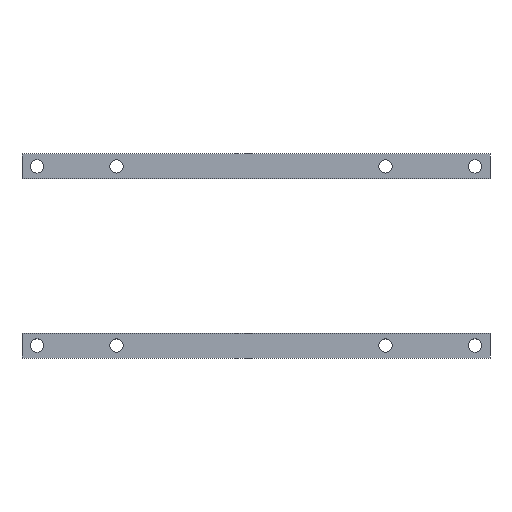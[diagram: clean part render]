
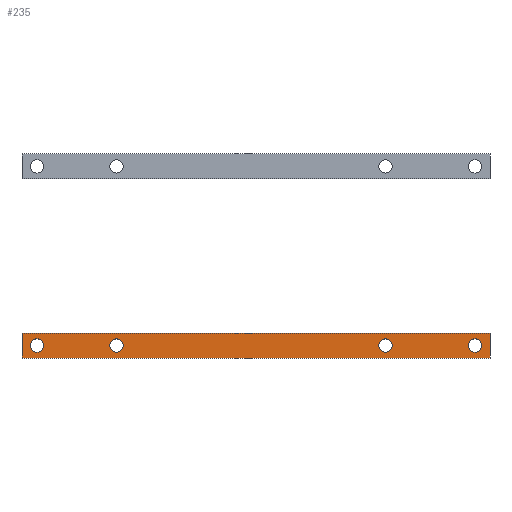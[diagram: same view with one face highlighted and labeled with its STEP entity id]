
A CAD part, top view. The second image highlights one B-rep face of the part: STEP entity #235.
In plain terms, the highlighted planar face has unit normal (0, 0, 1).
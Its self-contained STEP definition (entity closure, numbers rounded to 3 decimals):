
#46 = VERTEX_POINT('',#47);
#47 = CARTESIAN_POINT('',(56.,-20.5,-31.4));
#54 = PLANE('',#55);
#55 = AXIS2_PLACEMENT_3D('',#56,#57,#58);
#56 = CARTESIAN_POINT('',(56.,-20.5,-33.4));
#57 = DIRECTION('',(-1.,-0.,0.));
#58 = DIRECTION('',(0.,0.,-1.));
#66 = PLANE('',#67);
#67 = AXIS2_PLACEMENT_3D('',#68,#69,#70);
#68 = CARTESIAN_POINT('',(56.,-20.5,-33.4));
#69 = DIRECTION('',(-0.,1.,0.));
#70 = DIRECTION('',(0.,0.,-1.));
#107 = VERTEX_POINT('',#108);
#108 = CARTESIAN_POINT('',(56.,-15.5,-31.4));
#122 = PLANE('',#123);
#123 = AXIS2_PLACEMENT_3D('',#124,#125,#126);
#124 = CARTESIAN_POINT('',(56.,-15.5,-33.4));
#125 = DIRECTION('',(-0.,1.,0.));
#126 = DIRECTION('',(0.,0.,-1.));
#134 = EDGE_CURVE('',#46,#107,#135,.T.);
#135 = SURFACE_CURVE('',#136,(#140,#147),.PCURVE_S1.);
#136 = LINE('',#137,#138);
#137 = CARTESIAN_POINT('',(56.,-20.5,-31.4));
#138 = VECTOR('',#139,1.);
#139 = DIRECTION('',(-0.,1.,0.));
#140 = PCURVE('',#54,#141);
#141 = DEFINITIONAL_REPRESENTATION('',(#142),#146);
#142 = LINE('',#143,#144);
#143 = CARTESIAN_POINT('',(-2.,-0.));
#144 = VECTOR('',#145,1.);
#145 = DIRECTION('',(-0.,-1.));
#146 = ( GEOMETRIC_REPRESENTATION_CONTEXT(2) 
PARAMETRIC_REPRESENTATION_CONTEXT() REPRESENTATION_CONTEXT('2D SPACE',''
  ) );
#147 = PCURVE('',#148,#153);
#148 = PLANE('',#149);
#149 = AXIS2_PLACEMENT_3D('',#150,#151,#152);
#150 = CARTESIAN_POINT('',(56.,-20.5,-31.4));
#151 = DIRECTION('',(0.,0.,1.));
#152 = DIRECTION('',(1.,0.,0.));
#153 = DEFINITIONAL_REPRESENTATION('',(#154),#158);
#154 = LINE('',#155,#156);
#155 = CARTESIAN_POINT('',(0.,-0.));
#156 = VECTOR('',#157,1.);
#157 = DIRECTION('',(-0.,1.));
#158 = ( GEOMETRIC_REPRESENTATION_CONTEXT(2) 
PARAMETRIC_REPRESENTATION_CONTEXT() REPRESENTATION_CONTEXT('2D SPACE',''
  ) );
#187 = EDGE_CURVE('',#46,#188,#190,.T.);
#188 = VERTEX_POINT('',#189);
#189 = CARTESIAN_POINT('',(-38.,-20.5,-31.4));
#190 = SURFACE_CURVE('',#191,(#195,#202),.PCURVE_S1.);
#191 = LINE('',#192,#193);
#192 = CARTESIAN_POINT('',(56.,-20.5,-31.4));
#193 = VECTOR('',#194,1.);
#194 = DIRECTION('',(-1.,-0.,0.));
#195 = PCURVE('',#66,#196);
#196 = DEFINITIONAL_REPRESENTATION('',(#197),#201);
#197 = LINE('',#198,#199);
#198 = CARTESIAN_POINT('',(-2.,-0.));
#199 = VECTOR('',#200,1.);
#200 = DIRECTION('',(-0.,1.));
#201 = ( GEOMETRIC_REPRESENTATION_CONTEXT(2) 
PARAMETRIC_REPRESENTATION_CONTEXT() REPRESENTATION_CONTEXT('2D SPACE',''
  ) );
#202 = PCURVE('',#148,#203);
#203 = DEFINITIONAL_REPRESENTATION('',(#204),#208);
#204 = LINE('',#205,#206);
#205 = CARTESIAN_POINT('',(0.,-0.));
#206 = VECTOR('',#207,1.);
#207 = DIRECTION('',(-1.,0.));
#208 = ( GEOMETRIC_REPRESENTATION_CONTEXT(2) 
PARAMETRIC_REPRESENTATION_CONTEXT() REPRESENTATION_CONTEXT('2D SPACE',''
  ) );
#224 = PLANE('',#225);
#225 = AXIS2_PLACEMENT_3D('',#226,#227,#228);
#226 = CARTESIAN_POINT('',(-38.,-20.5,-33.4));
#227 = DIRECTION('',(-1.,-0.,0.));
#228 = DIRECTION('',(0.,0.,-1.));
#235 = ADVANCED_FACE('',(#236,#284,#315,#346,#377),#148,.T.);
#236 = FACE_BOUND('',#237,.F.);
#237 = EDGE_LOOP('',(#238,#239,#240,#263));
#238 = ORIENTED_EDGE('',*,*,#134,.F.);
#239 = ORIENTED_EDGE('',*,*,#187,.T.);
#240 = ORIENTED_EDGE('',*,*,#241,.T.);
#241 = EDGE_CURVE('',#188,#242,#244,.T.);
#242 = VERTEX_POINT('',#243);
#243 = CARTESIAN_POINT('',(-38.,-15.5,-31.4));
#244 = SURFACE_CURVE('',#245,(#249,#256),.PCURVE_S1.);
#245 = LINE('',#246,#247);
#246 = CARTESIAN_POINT('',(-38.,-20.5,-31.4));
#247 = VECTOR('',#248,1.);
#248 = DIRECTION('',(-0.,1.,0.));
#249 = PCURVE('',#148,#250);
#250 = DEFINITIONAL_REPRESENTATION('',(#251),#255);
#251 = LINE('',#252,#253);
#252 = CARTESIAN_POINT('',(-94.,0.));
#253 = VECTOR('',#254,1.);
#254 = DIRECTION('',(-0.,1.));
#255 = ( GEOMETRIC_REPRESENTATION_CONTEXT(2) 
PARAMETRIC_REPRESENTATION_CONTEXT() REPRESENTATION_CONTEXT('2D SPACE',''
  ) );
#256 = PCURVE('',#224,#257);
#257 = DEFINITIONAL_REPRESENTATION('',(#258),#262);
#258 = LINE('',#259,#260);
#259 = CARTESIAN_POINT('',(-2.,-0.));
#260 = VECTOR('',#261,1.);
#261 = DIRECTION('',(-0.,-1.));
#262 = ( GEOMETRIC_REPRESENTATION_CONTEXT(2) 
PARAMETRIC_REPRESENTATION_CONTEXT() REPRESENTATION_CONTEXT('2D SPACE',''
  ) );
#263 = ORIENTED_EDGE('',*,*,#264,.F.);
#264 = EDGE_CURVE('',#107,#242,#265,.T.);
#265 = SURFACE_CURVE('',#266,(#270,#277),.PCURVE_S1.);
#266 = LINE('',#267,#268);
#267 = CARTESIAN_POINT('',(56.,-15.5,-31.4));
#268 = VECTOR('',#269,1.);
#269 = DIRECTION('',(-1.,-0.,0.));
#270 = PCURVE('',#148,#271);
#271 = DEFINITIONAL_REPRESENTATION('',(#272),#276);
#272 = LINE('',#273,#274);
#273 = CARTESIAN_POINT('',(0.,5.));
#274 = VECTOR('',#275,1.);
#275 = DIRECTION('',(-1.,0.));
#276 = ( GEOMETRIC_REPRESENTATION_CONTEXT(2) 
PARAMETRIC_REPRESENTATION_CONTEXT() REPRESENTATION_CONTEXT('2D SPACE',''
  ) );
#277 = PCURVE('',#122,#278);
#278 = DEFINITIONAL_REPRESENTATION('',(#279),#283);
#279 = LINE('',#280,#281);
#280 = CARTESIAN_POINT('',(-2.,-0.));
#281 = VECTOR('',#282,1.);
#282 = DIRECTION('',(-0.,1.));
#283 = ( GEOMETRIC_REPRESENTATION_CONTEXT(2) 
PARAMETRIC_REPRESENTATION_CONTEXT() REPRESENTATION_CONTEXT('2D SPACE',''
  ) );
#284 = FACE_BOUND('',#285,.F.);
#285 = EDGE_LOOP('',(#286));
#286 = ORIENTED_EDGE('',*,*,#287,.T.);
#287 = EDGE_CURVE('',#288,#288,#290,.T.);
#288 = VERTEX_POINT('',#289);
#289 = CARTESIAN_POINT('',(51.65,-18.,-31.4));
#290 = SURFACE_CURVE('',#291,(#296,#303),.PCURVE_S1.);
#291 = CIRCLE('',#292,1.35);
#292 = AXIS2_PLACEMENT_3D('',#293,#294,#295);
#293 = CARTESIAN_POINT('',(53.,-18.,-31.4));
#294 = DIRECTION('',(0.,0.,1.));
#295 = DIRECTION('',(-1.,-0.,-0.));
#296 = PCURVE('',#148,#297);
#297 = DEFINITIONAL_REPRESENTATION('',(#298),#302);
#298 = CIRCLE('',#299,1.35);
#299 = AXIS2_PLACEMENT_2D('',#300,#301);
#300 = CARTESIAN_POINT('',(-3.,2.5));
#301 = DIRECTION('',(-1.,0.));
#302 = ( GEOMETRIC_REPRESENTATION_CONTEXT(2) 
PARAMETRIC_REPRESENTATION_CONTEXT() REPRESENTATION_CONTEXT('2D SPACE',''
  ) );
#303 = PCURVE('',#304,#309);
#304 = CYLINDRICAL_SURFACE('',#305,1.35);
#305 = AXIS2_PLACEMENT_3D('',#306,#307,#308);
#306 = CARTESIAN_POINT('',(53.,-18.,-34.));
#307 = DIRECTION('',(0.,-0.,-1.));
#308 = DIRECTION('',(-1.,-0.,-0.));
#309 = DEFINITIONAL_REPRESENTATION('',(#310),#314);
#310 = LINE('',#311,#312);
#311 = CARTESIAN_POINT('',(6.283,-2.6));
#312 = VECTOR('',#313,1.);
#313 = DIRECTION('',(-1.,0.));
#314 = ( GEOMETRIC_REPRESENTATION_CONTEXT(2) 
PARAMETRIC_REPRESENTATION_CONTEXT() REPRESENTATION_CONTEXT('2D SPACE',''
  ) );
#315 = FACE_BOUND('',#316,.F.);
#316 = EDGE_LOOP('',(#317));
#317 = ORIENTED_EDGE('',*,*,#318,.T.);
#318 = EDGE_CURVE('',#319,#319,#321,.T.);
#319 = VERTEX_POINT('',#320);
#320 = CARTESIAN_POINT('',(33.65,-18.,-31.4));
#321 = SURFACE_CURVE('',#322,(#327,#334),.PCURVE_S1.);
#322 = CIRCLE('',#323,1.35);
#323 = AXIS2_PLACEMENT_3D('',#324,#325,#326);
#324 = CARTESIAN_POINT('',(35.,-18.,-31.4));
#325 = DIRECTION('',(0.,0.,1.));
#326 = DIRECTION('',(-1.,-0.,-0.));
#327 = PCURVE('',#148,#328);
#328 = DEFINITIONAL_REPRESENTATION('',(#329),#333);
#329 = CIRCLE('',#330,1.35);
#330 = AXIS2_PLACEMENT_2D('',#331,#332);
#331 = CARTESIAN_POINT('',(-21.,2.5));
#332 = DIRECTION('',(-1.,0.));
#333 = ( GEOMETRIC_REPRESENTATION_CONTEXT(2) 
PARAMETRIC_REPRESENTATION_CONTEXT() REPRESENTATION_CONTEXT('2D SPACE',''
  ) );
#334 = PCURVE('',#335,#340);
#335 = CYLINDRICAL_SURFACE('',#336,1.35);
#336 = AXIS2_PLACEMENT_3D('',#337,#338,#339);
#337 = CARTESIAN_POINT('',(35.,-18.,-34.));
#338 = DIRECTION('',(0.,-0.,-1.));
#339 = DIRECTION('',(-1.,-0.,-0.));
#340 = DEFINITIONAL_REPRESENTATION('',(#341),#345);
#341 = LINE('',#342,#343);
#342 = CARTESIAN_POINT('',(6.283,-2.6));
#343 = VECTOR('',#344,1.);
#344 = DIRECTION('',(-1.,0.));
#345 = ( GEOMETRIC_REPRESENTATION_CONTEXT(2) 
PARAMETRIC_REPRESENTATION_CONTEXT() REPRESENTATION_CONTEXT('2D SPACE',''
  ) );
#346 = FACE_BOUND('',#347,.F.);
#347 = EDGE_LOOP('',(#348));
#348 = ORIENTED_EDGE('',*,*,#349,.T.);
#349 = EDGE_CURVE('',#350,#350,#352,.T.);
#350 = VERTEX_POINT('',#351);
#351 = CARTESIAN_POINT('',(-20.35,-18.,-31.4));
#352 = SURFACE_CURVE('',#353,(#358,#365),.PCURVE_S1.);
#353 = CIRCLE('',#354,1.35);
#354 = AXIS2_PLACEMENT_3D('',#355,#356,#357);
#355 = CARTESIAN_POINT('',(-19.,-18.,-31.4));
#356 = DIRECTION('',(0.,0.,1.));
#357 = DIRECTION('',(-1.,-0.,-0.));
#358 = PCURVE('',#148,#359);
#359 = DEFINITIONAL_REPRESENTATION('',(#360),#364);
#360 = CIRCLE('',#361,1.35);
#361 = AXIS2_PLACEMENT_2D('',#362,#363);
#362 = CARTESIAN_POINT('',(-75.,2.5));
#363 = DIRECTION('',(-1.,0.));
#364 = ( GEOMETRIC_REPRESENTATION_CONTEXT(2) 
PARAMETRIC_REPRESENTATION_CONTEXT() REPRESENTATION_CONTEXT('2D SPACE',''
  ) );
#365 = PCURVE('',#366,#371);
#366 = CYLINDRICAL_SURFACE('',#367,1.35);
#367 = AXIS2_PLACEMENT_3D('',#368,#369,#370);
#368 = CARTESIAN_POINT('',(-19.,-18.,-34.));
#369 = DIRECTION('',(0.,-0.,-1.));
#370 = DIRECTION('',(-1.,-0.,-0.));
#371 = DEFINITIONAL_REPRESENTATION('',(#372),#376);
#372 = LINE('',#373,#374);
#373 = CARTESIAN_POINT('',(6.283,-2.6));
#374 = VECTOR('',#375,1.);
#375 = DIRECTION('',(-1.,0.));
#376 = ( GEOMETRIC_REPRESENTATION_CONTEXT(2) 
PARAMETRIC_REPRESENTATION_CONTEXT() REPRESENTATION_CONTEXT('2D SPACE',''
  ) );
#377 = FACE_BOUND('',#378,.F.);
#378 = EDGE_LOOP('',(#379));
#379 = ORIENTED_EDGE('',*,*,#380,.T.);
#380 = EDGE_CURVE('',#381,#381,#383,.T.);
#381 = VERTEX_POINT('',#382);
#382 = CARTESIAN_POINT('',(-36.35,-18.,-31.4));
#383 = SURFACE_CURVE('',#384,(#389,#396),.PCURVE_S1.);
#384 = CIRCLE('',#385,1.35);
#385 = AXIS2_PLACEMENT_3D('',#386,#387,#388);
#386 = CARTESIAN_POINT('',(-35.,-18.,-31.4));
#387 = DIRECTION('',(0.,0.,1.));
#388 = DIRECTION('',(-1.,-0.,-0.));
#389 = PCURVE('',#148,#390);
#390 = DEFINITIONAL_REPRESENTATION('',(#391),#395);
#391 = CIRCLE('',#392,1.35);
#392 = AXIS2_PLACEMENT_2D('',#393,#394);
#393 = CARTESIAN_POINT('',(-91.,2.5));
#394 = DIRECTION('',(-1.,0.));
#395 = ( GEOMETRIC_REPRESENTATION_CONTEXT(2) 
PARAMETRIC_REPRESENTATION_CONTEXT() REPRESENTATION_CONTEXT('2D SPACE',''
  ) );
#396 = PCURVE('',#397,#402);
#397 = CYLINDRICAL_SURFACE('',#398,1.35);
#398 = AXIS2_PLACEMENT_3D('',#399,#400,#401);
#399 = CARTESIAN_POINT('',(-35.,-18.,-34.));
#400 = DIRECTION('',(0.,-0.,-1.));
#401 = DIRECTION('',(-1.,-0.,-0.));
#402 = DEFINITIONAL_REPRESENTATION('',(#403),#407);
#403 = LINE('',#404,#405);
#404 = CARTESIAN_POINT('',(6.283,-2.6));
#405 = VECTOR('',#406,1.);
#406 = DIRECTION('',(-1.,0.));
#407 = ( GEOMETRIC_REPRESENTATION_CONTEXT(2) 
PARAMETRIC_REPRESENTATION_CONTEXT() REPRESENTATION_CONTEXT('2D SPACE',''
  ) );
